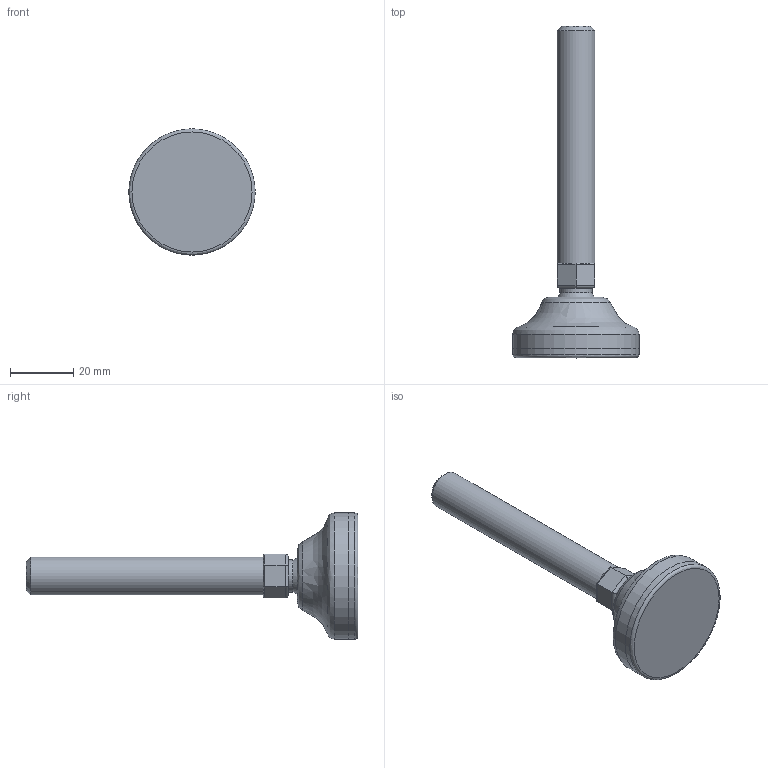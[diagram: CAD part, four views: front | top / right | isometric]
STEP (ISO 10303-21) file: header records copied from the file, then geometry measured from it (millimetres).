
FILE_DESCRIPTION(('STEP AP203'),'2;1');
FILE_NAME('10233-12.stp','2015-07-01T14:05:33',(''),(''),'2008.1.107','THINKDESIGN','');
FILE_SCHEMA(('CONFIG_CONTROL_DESIGN'));
Length unit declared in the file: millimetre
Bounding box: 40 x 105 x 40 mm (x, y, z)
Volume: 26730.5 mm3; surface area: 10277.5 mm2
Topology: 5 solids, 5 shells, 38 faces, 80 edges, 52 vertices
Faces by surface type: plane 16, cylinder 16, bspline 6
Full cylindrical faces by diameter (mm): 10.163 x1, 12 x1, 39.997 x1, 40 x1
Entity records: 1575 total; most frequent: CARTESIAN_POINT 681, DIRECTION 165, ORIENTED_EDGE 160, EDGE_CURVE 80, AXIS2_PLACEMENT_3D 65, VERTEX_POINT 52, EDGE_LOOP 38, FACE_OUTER_BOUND 38
